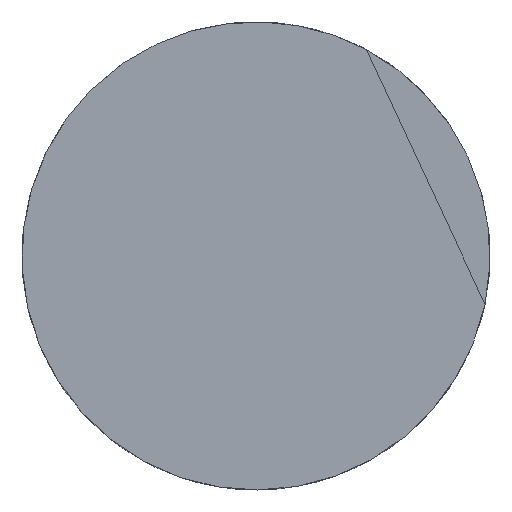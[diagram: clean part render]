
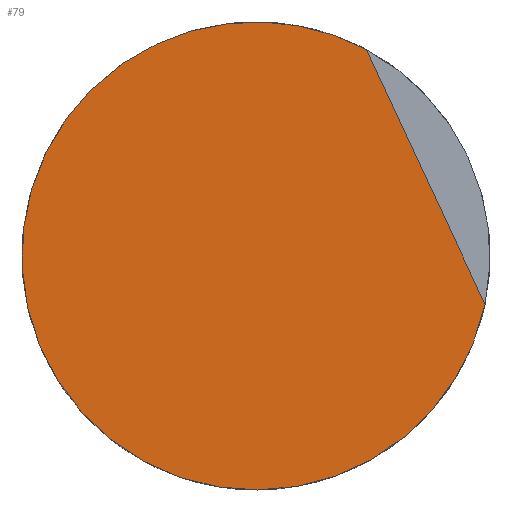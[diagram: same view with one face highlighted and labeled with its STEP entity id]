
A CAD part, front view. The second image highlights one B-rep face of the part: STEP entity #79.
In plain terms, the highlighted planar face has unit normal (0, -1, 0).
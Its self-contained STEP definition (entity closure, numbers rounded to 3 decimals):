
#17=CIRCLE('',#100,2.5);
#18=CIRCLE('',#101,2.5);
#22=FACE_OUTER_BOUND('',#27,.T.);
#27=EDGE_LOOP('',(#61,#62,#63));
#30=LINE('',#134,#35);
#35=VECTOR('',#109,10.);
#40=VERTEX_POINT('',#132);
#41=VERTEX_POINT('',#133);
#44=VERTEX_POINT('',#143);
#46=EDGE_CURVE('',#40,#41,#30,.T.);
#51=EDGE_CURVE('',#41,#44,#17,.T.);
#52=EDGE_CURVE('',#44,#40,#18,.T.);
#61=ORIENTED_EDGE('',*,*,#46,.T.);
#62=ORIENTED_EDGE('',*,*,#51,.T.);
#63=ORIENTED_EDGE('',*,*,#52,.T.);
#75=PLANE('',#99);
#79=ADVANCED_FACE('',(#22),#75,.T.);
#99=AXIS2_PLACEMENT_3D('',#142,#117,#118);
#100=AXIS2_PLACEMENT_3D('',#144,#119,#120);
#101=AXIS2_PLACEMENT_3D('',#145,#121,#122);
#109=DIRECTION('',(-0.423,0.,0.906));
#117=DIRECTION('center_axis',(0.,-1.,0.));
#118=DIRECTION('ref_axis',(0.423,0.,-0.906));
#119=DIRECTION('center_axis',(0.,-1.,0.));
#120=DIRECTION('ref_axis',(0.423,0.,-0.906));
#121=DIRECTION('center_axis',(0.,-1.,0.));
#122=DIRECTION('ref_axis',(0.423,0.,-0.906));
#132=CARTESIAN_POINT('',(-7.638,-352.9,73.767));
#133=CARTESIAN_POINT('',(-8.906,-352.9,76.486));
#134=CARTESIAN_POINT('',(-7.955,-352.9,74.447));
#142=CARTESIAN_POINT('Origin',(-10.085,-352.9,74.281));
#143=CARTESIAN_POINT('',(-11.141,-352.9,76.547));
#144=CARTESIAN_POINT('Origin',(-10.085,-352.9,74.281));
#145=CARTESIAN_POINT('Origin',(-10.085,-352.9,74.281));
